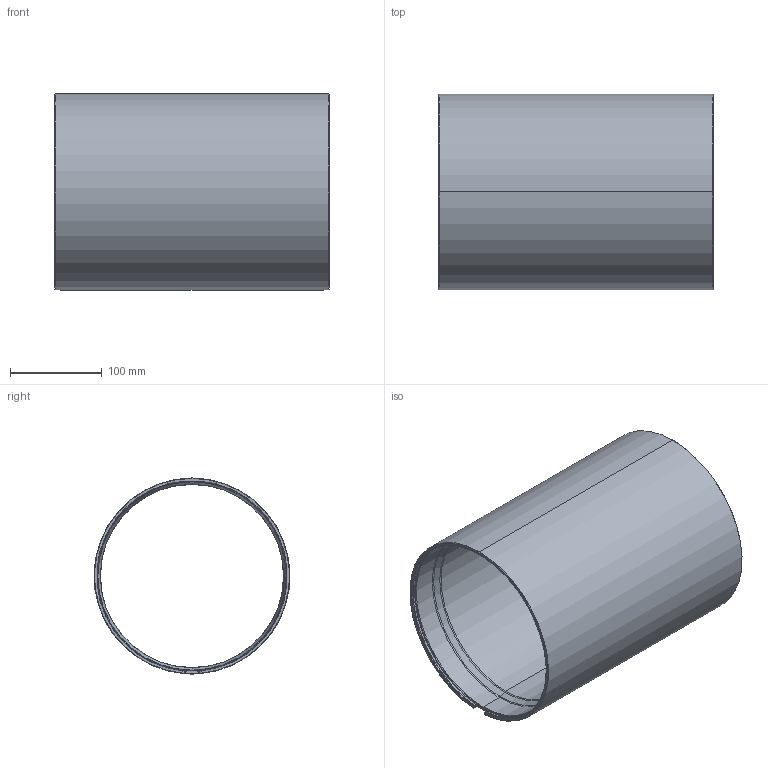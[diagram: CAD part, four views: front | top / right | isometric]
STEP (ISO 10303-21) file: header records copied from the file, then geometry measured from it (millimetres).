
FILE_DESCRIPTION (( 'STEP AP214' ), '1' );
FILE_NAME ('WTE8-M-LOCKING-TUBE-300.STEP', '2023-11-16T21:36:37', ( '' ), ( '' ), 'SwSTEP 2.0', 'SolidWorks 2022', '' );
FILE_SCHEMA (( 'AUTOMOTIVE_DESIGN' ));
Length unit declared in the file: millimetre
Products named in the file (1): WTE8-M-LOCKING-TUBE-300
Bounding box: 300 x 214.01 x 214.2 mm (x, y, z)
Volume: 1232773.4 mm3; surface area: 396920.4 mm2
Topology: 1 solids, 1 shells, 82 faces, 204 edges, 122 vertices
Faces by surface type: torus 20, cylinder 20, bspline 16, cone 14, plane 12
Entity records: 4856 total; most frequent: CARTESIAN_POINT 3047, ORIENTED_EDGE 408, DIRECTION 326, EDGE_CURVE 204, AXIS2_PLACEMENT_3D 143, VERTEX_POINT 122, B_SPLINE_CURVE_WITH_KNOTS 84, FACE_OUTER_BOUND 82
